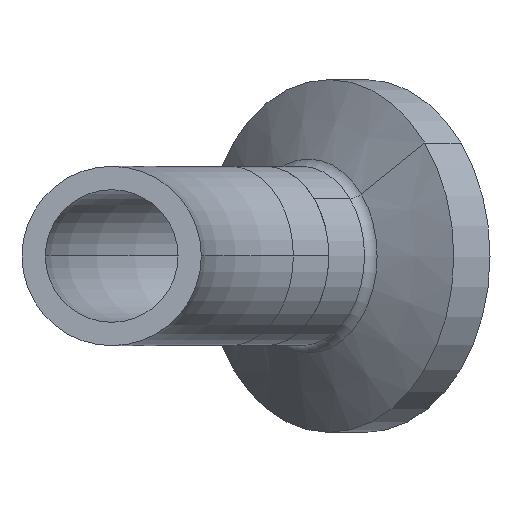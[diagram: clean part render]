
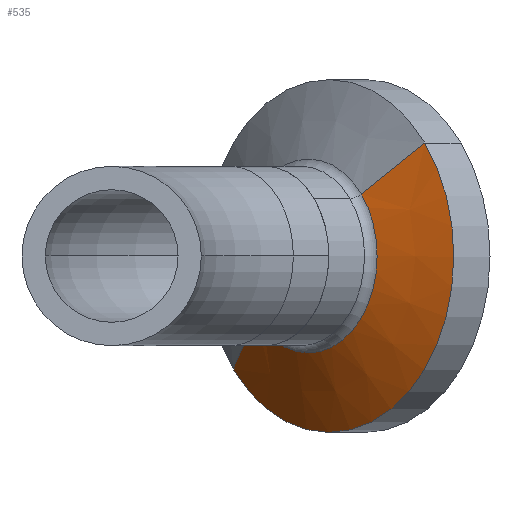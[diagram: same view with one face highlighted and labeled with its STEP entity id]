
A CAD part, front view. The second image highlights one B-rep face of the part: STEP entity #535.
In plain terms, the highlighted conical face has half-angle 70 degrees and reference radius 6.868 mm.
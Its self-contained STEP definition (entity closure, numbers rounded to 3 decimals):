
#8 = EDGE_CURVE ( 'NONE', #904, #135, #307, .T. ) ;
#10 = VERTEX_POINT ( 'NONE', #856 ) ;
#16 = DIRECTION ( 'NONE',  ( 0.543, -0.543, 0.64 ) ) ;
#26 = VECTOR ( 'NONE', #52, 1000. ) ;
#52 = DIRECTION ( 'NONE',  ( 0.752, -0.269, 0.602 ) ) ;
#57 = DIRECTION ( 'NONE',  ( 0.543, -0.543, 0.64 ) ) ;
#84 = VECTOR ( 'NONE', #1016, 1000. ) ;
#87 = CIRCLE ( 'NONE', #180, 6.868 ) ;
#96 = DIRECTION ( 'NONE',  ( 0.707, 0.707, 0. ) ) ;
#100 = EDGE_CURVE ( 'NONE', #357, #10, #257, .T. ) ;
#126 = FACE_OUTER_BOUND ( 'NONE', #760, .T. ) ;
#135 = VERTEX_POINT ( 'NONE', #360 ) ;
#180 = AXIS2_PLACEMENT_3D ( 'NONE', #482, #1032, #57 ) ;
#257 = LINE ( 'NONE', #602, #26 ) ;
#299 = DIRECTION ( 'NONE',  ( 0.543, -0.543, 0.64 ) ) ;
#307 = LINE ( 'NONE', #709, #84 ) ;
#357 = VERTEX_POINT ( 'NONE', #493 ) ;
#360 = CARTESIAN_POINT ( 'NONE',  ( 8.604, 79.38, -8.001 ) ) ;
#451 = CIRCLE ( 'NONE', #465, 12.497 ) ;
#465 = AXIS2_PLACEMENT_3D ( 'NONE', #583, #96, #16 ) ;
#467 = DIRECTION ( 'NONE',  ( 0.707, 0.707, 0. ) ) ;
#482 = CARTESIAN_POINT ( 'NONE',  ( 13.944, 71.144, 0. ) ) ;
#493 = CARTESIAN_POINT ( 'NONE',  ( 17.674, 67.413, 4.397 ) ) ;
#513 = CARTESIAN_POINT ( 'NONE',  ( 10.213, 74.874, -4.397 ) ) ;
#524 = ORIENTED_EDGE ( 'NONE', *, *, #794, .T. ) ;
#535 = ADVANCED_FACE ( 'NONE', ( #126 ), #734, .T. ) ;
#563 = ORIENTED_EDGE ( 'NONE', *, *, #8, .T. ) ;
#583 = CARTESIAN_POINT ( 'NONE',  ( 15.392, 72.592, 0. ) ) ;
#602 = CARTESIAN_POINT ( 'NONE',  ( 17.674, 67.413, 4.397 ) ) ;
#709 = CARTESIAN_POINT ( 'NONE',  ( 10.213, 74.874, -4.397 ) ) ;
#734 = CONICAL_SURFACE ( 'NONE', #764, 6.868, 1.222 ) ;
#760 = EDGE_LOOP ( 'NONE', ( #524, #563, #965, #1041 ) ) ;
#764 = AXIS2_PLACEMENT_3D ( 'NONE', #1014, #467, #299 ) ;
#794 = EDGE_CURVE ( 'NONE', #357, #904, #87, .T. ) ;
#856 = CARTESIAN_POINT ( 'NONE',  ( 22.18, 65.804, 8.001 ) ) ;
#883 = EDGE_CURVE ( 'NONE', #10, #135, #451, .T. ) ;
#904 = VERTEX_POINT ( 'NONE', #513 ) ;
#965 = ORIENTED_EDGE ( 'NONE', *, *, #883, .F. ) ;
#1014 = CARTESIAN_POINT ( 'NONE',  ( 13.944, 71.144, 0. ) ) ;
#1016 = DIRECTION ( 'NONE',  ( -0.269, 0.752, -0.602 ) ) ;
#1032 = DIRECTION ( 'NONE',  ( 0.707, 0.707, 0. ) ) ;
#1041 = ORIENTED_EDGE ( 'NONE', *, *, #100, .F. ) ;
